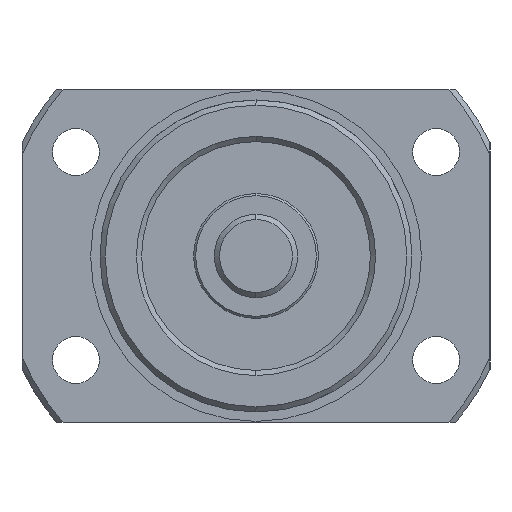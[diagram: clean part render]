
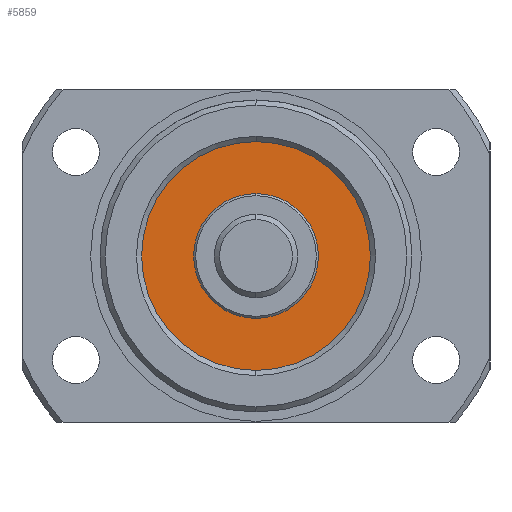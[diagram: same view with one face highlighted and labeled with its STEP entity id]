
A CAD part, left-side view. The second image highlights one B-rep face of the part: STEP entity #5859.
In plain terms, the highlighted planar face has unit normal (-1, 0, 0).
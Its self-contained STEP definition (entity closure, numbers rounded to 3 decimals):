
#17 = EDGE_CURVE ( 'NONE', #1325, #1352, #211, .T. ) ;
#19 = EDGE_CURVE ( 'NONE', #1352, #1325, #3632, .T. ) ;
#29 = EDGE_CURVE ( 'NONE', #4854, #1388, #3634, .T. ) ;
#53 = EDGE_CURVE ( 'NONE', #1388, #4854, #5335, .T. ) ;
#211 = CIRCLE ( 'NONE', #776, 11. ) ;
#226 = DIRECTION ( 'NONE',  ( -1., 0., 0. ) ) ;
#253 = CARTESIAN_POINT ( 'NONE',  ( -49.5, 0., 0. ) ) ;
#271 = DIRECTION ( 'NONE',  ( 0., 0., 1. ) ) ;
#272 = DIRECTION ( 'NONE',  ( 0., 0., 1. ) ) ;
#320 = CARTESIAN_POINT ( 'NONE',  ( -49.5, 0., 0. ) ) ;
#330 = DIRECTION ( 'NONE',  ( -1., 0., 0. ) ) ;
#352 = CARTESIAN_POINT ( 'NONE',  ( -49.5, 0., 0. ) ) ;
#388 = DIRECTION ( 'NONE',  ( 0., 0., 1. ) ) ;
#401 = DIRECTION ( 'NONE',  ( -1., 0., 0. ) ) ;
#776 = AXIS2_PLACEMENT_3D ( 'NONE', #352, #226, #272 ) ;
#1259 = AXIS2_PLACEMENT_3D ( 'NONE', #253, #330, #388 ) ;
#1263 = AXIS2_PLACEMENT_3D ( 'NONE', #320, #401, #271 ) ;
#1277 = AXIS2_PLACEMENT_3D ( 'NONE', #2695, #2760, #2767 ) ;
#1325 = VERTEX_POINT ( 'NONE', #6220 ) ;
#1352 = VERTEX_POINT ( 'NONE', #6325 ) ;
#1388 = VERTEX_POINT ( 'NONE', #3755 ) ;
#1766 = DIRECTION ( 'NONE',  ( -1., 0., 0. ) ) ;
#1767 = CARTESIAN_POINT ( 'NONE',  ( -49.5, 0., 0. ) ) ;
#1769 = PLANE ( 'NONE',  #4739 ) ;
#1771 = DIRECTION ( 'NONE',  ( 0., 0., 1. ) ) ;
#2470 = EDGE_LOOP ( 'NONE', ( #2544, #6188 ) ) ;
#2531 = ORIENTED_EDGE ( 'NONE', *, *, #29, .F. ) ;
#2544 = ORIENTED_EDGE ( 'NONE', *, *, #17, .T. ) ;
#2695 = CARTESIAN_POINT ( 'NONE',  ( -49.5, 0., 0. ) ) ;
#2760 = DIRECTION ( 'NONE',  ( -1., 0., 0. ) ) ;
#2767 = DIRECTION ( 'NONE',  ( 0., 0., 1. ) ) ;
#3216 = EDGE_LOOP ( 'NONE', ( #6193, #2531 ) ) ;
#3632 = CIRCLE ( 'NONE', #1259, 11. ) ;
#3634 = CIRCLE ( 'NONE', #1263, 6. ) ;
#3755 = CARTESIAN_POINT ( 'NONE',  ( -49.5, 0., -6. ) ) ;
#4182 = FACE_BOUND ( 'NONE', #3216, .T. ) ;
#4186 = FACE_OUTER_BOUND ( 'NONE', #2470, .T. ) ;
#4739 = AXIS2_PLACEMENT_3D ( 'NONE', #1767, #1766, #1771 ) ;
#4854 = VERTEX_POINT ( 'NONE', #5635 ) ;
#5335 = CIRCLE ( 'NONE', #1277, 6. ) ;
#5635 = CARTESIAN_POINT ( 'NONE',  ( -49.5, 0., 6. ) ) ;
#5859 = ADVANCED_FACE ( 'NONE', ( #4182, #4186 ), #1769, .T. ) ;
#6188 = ORIENTED_EDGE ( 'NONE', *, *, #19, .T. ) ;
#6193 = ORIENTED_EDGE ( 'NONE', *, *, #53, .F. ) ;
#6220 = CARTESIAN_POINT ( 'NONE',  ( -49.5, 0., -11. ) ) ;
#6325 = CARTESIAN_POINT ( 'NONE',  ( -49.5, 0., 11. ) ) ;
